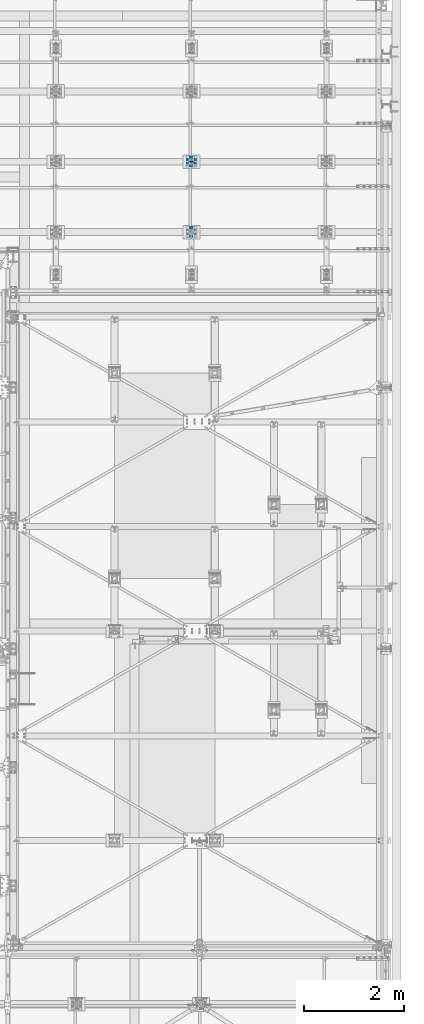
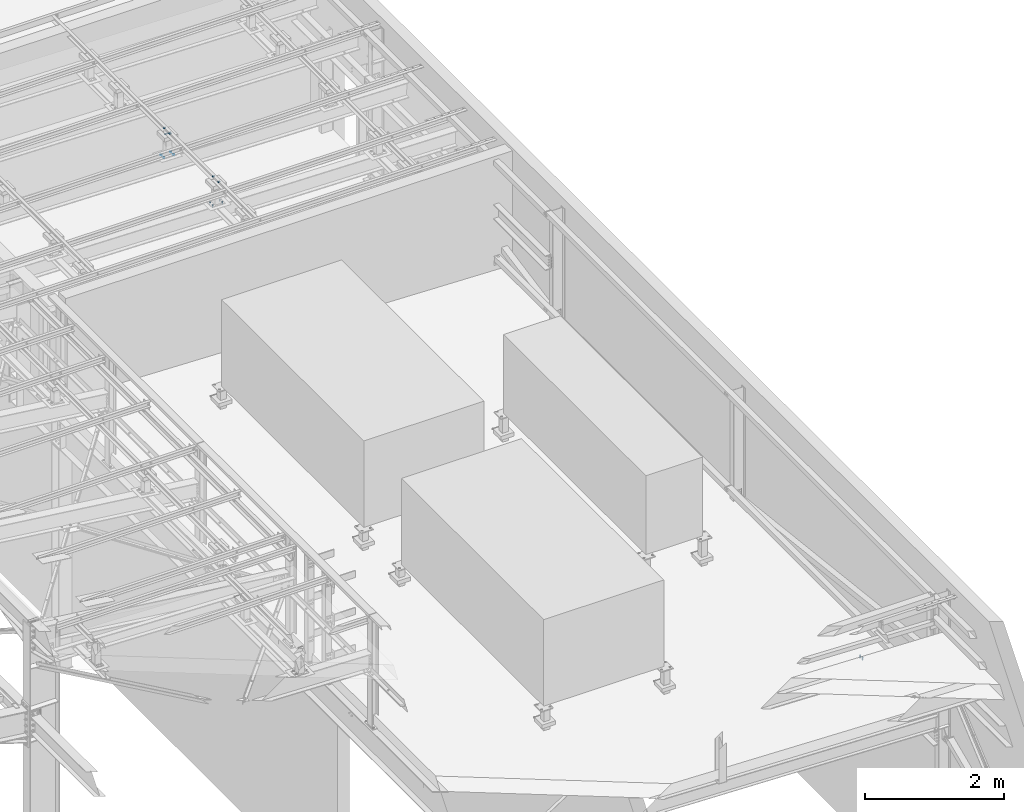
# One storey, part 392 of 3134: 7 mechanical fasteners, 6 elements without a shape of their own.
"""IFC2X3 building model written with IfcOpenShell, lengths in millimetres."""

from ifc_helpers import new_model, si_unit, frame, origin_with_axes, place, context, subcontext, project, spatial, faceted_brep, source, transform, mapped, material, type_object, element, aggregate, save


model = new_model("IFC2X3")

# Units and contexts
model_context = context("Model", 3, precision=1e-05, world=origin_with_axes())
body_context = subcontext(model_context, "Body", "Model", "MODEL_VIEW")
ifc_project = project(units=[si_unit("LENGTHUNIT", "METRE", prefix="MILLI"), si_unit("AREAUNIT", "SQUARE_METRE"), si_unit("VOLUMEUNIT", "CUBIC_METRE"), si_unit("MASSUNIT", "GRAM", prefix="KILO"), si_unit("TIMEUNIT", "SECOND"), si_unit("PLANEANGLEUNIT", "RADIAN"), si_unit("SOLIDANGLEUNIT", "STERADIAN"), si_unit("THERMODYNAMICTEMPERATUREUNIT", "DEGREE_CELSIUS"), si_unit("LUMINOUSINTENSITYUNIT", "LUMEN")], contexts=[model_context])

# Site, building, storey
site_placement = place(None, origin_with_axes())
site = spatial("IfcSite", under=ifc_project, at=site_placement, CompositionType="ELEMENT")
building_placement = place(site_placement, origin_with_axes())
building = spatial("IfcBuilding", under=site, at=building_placement, Name="Undefined", CompositionType="ELEMENT")
storey_placement = place(building_placement, origin_with_axes())
storey = spatial("IfcBuildingStorey", under=building, at=storey_placement, Name="Undefined", CompositionType="ELEMENT", Elevation=0.0)

# Assembly, mechanical fastener
assembly_1_placement = place(storey_placement, origin_with_axes())
assembly_1 = element("IfcElementAssembly", 1, at=assembly_1_placement, inside=storey, AssemblyPlace="NOTDEFINED", PredefinedType="RIGID_FRAME")
ifc_material = material(Name="8.8")
mechanical_fastener_type = type_object("IfcMechanicalFastenerType", Name="Bolt assembly")
shared_shape_1 = source(origin_with_axes(), body_context, "Body", "Brep", [
    faceted_brep([(10.9696551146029, -14.0, 0.0), (5.48482755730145, -14.0, 9.5), (-5.48482755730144, -14.0, 9.5), (-10.9696551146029, -14.0, 1.34339530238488e-15), (-5.48482755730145, -14.0, -9.5), (5.48482755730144, -14.0, -9.50000000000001), (5.48482755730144, -6.0, -9.50000000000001), (-5.48482755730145, -6.0, -9.5), (-10.9696551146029, -6.0, 1.34339530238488e-15), (-5.48482755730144, -6.0, 9.5), (5.48482755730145, -6.0, 9.5), (10.9696551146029, -6.0, 0.0), (6.0, -6.0, 0.0), (5.19615242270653, -6.0, 3.00000000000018), (2.99999999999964, -6.0, 5.19615242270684), (-6.21801588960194e-13, -6.0, 6.0), (-3.00000000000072, -6.0, 5.19615242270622), (-5.19615242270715, -6.0, 2.9999999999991), (-6.0, -6.0, -1.24360317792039e-12), (-5.19615242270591, -6.0, -3.00000000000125), (-2.99999999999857, -6.0, -5.19615242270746), (1.85874342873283e-12, -6.0, -6.0), (3.00000000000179, -6.0, -5.1961524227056), (5.19615242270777, -6.0, -2.99999999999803), (5.19615242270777, 19.0, -2.99999999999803), (3.00000000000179, 19.0, -5.1961524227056), (1.85874342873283e-12, 19.0, -6.0), (-2.99999999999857, 19.0, -5.19615242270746), (-5.19615242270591, 19.0, -3.00000000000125), (-6.0, 19.0, -1.24360317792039e-12), (-5.19615242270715, 19.0, 2.9999999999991), (-3.00000000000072, 19.0, 5.19615242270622), (-6.21801588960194e-13, 19.0, 6.0), (2.99999999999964, 19.0, 5.19615242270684), (5.19615242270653, 19.0, 3.00000000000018), (6.0, 19.0, 0.0), (10.9696551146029, 4.00000000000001, 0.0), (5.48482755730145, 4.00000000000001, 9.5), (-5.48482755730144, 4.00000000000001, 9.5), (-10.9696551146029, 4.00000000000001, 1.34339530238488e-15), (-5.48482755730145, 4.00000000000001, -9.5), (5.48482755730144, 4.00000000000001, -9.50000000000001), (5.48482755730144, 14.0, -9.50000000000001), (-5.48482755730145, 14.0, -9.5), (-10.9696551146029, 14.0, 1.34339530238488e-15), (-5.48482755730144, 14.0, 9.5), (5.48482755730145, 14.0, 9.5), (10.9696551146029, 14.0, 0.0)], [[[0, 1, 2, 3, 4, 5]], [[6, 7, 8, 9, 10, 11]], [[0, 11, 10, 1]], [[1, 10, 9, 2]], [[2, 9, 8, 3]], [[3, 8, 7, 4]], [[4, 7, 6, 5]], [[5, 6, 11, 0]], [[12, 13, 14, 15, 16, 17, 18, 19, 20, 21, 22, 23]], [[24, 25, 26, 27, 28, 29, 30, 31, 32, 33, 34, 35]], [[12, 35, 34, 13]], [[13, 34, 33, 14]], [[14, 33, 32, 15]], [[15, 32, 31, 16]], [[16, 31, 30, 17]], [[17, 30, 29, 18]], [[18, 29, 28, 19]], [[19, 28, 27, 20]], [[20, 27, 26, 21]], [[21, 26, 25, 22]], [[22, 25, 24, 23]], [[23, 24, 35, 12]], [[36, 37, 38, 39, 40, 41]], [[42, 43, 44, 45, 46, 47]], [[36, 47, 46, 37]], [[37, 46, 45, 38]], [[38, 45, 44, 39]], [[39, 44, 43, 40]], [[40, 43, 42, 41]], [[41, 42, 47, 36]]]),
    faceted_brep([(7.0, -0.1, 0.0), (6.06217782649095, -0.1, 3.50000000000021), (3.49999999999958, -0.1, 6.06217782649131), (-7.25435187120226e-13, -0.1, 7.0), (-3.50000000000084, -0.1, 6.06217782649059), (-6.06217782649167, -0.1, 3.49999999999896), (-7.0, -0.1, -1.45087037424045e-12), (-6.06217782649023, -0.1, -3.50000000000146), (-3.49999999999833, -0.1, -6.06217782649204), (2.1685340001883e-12, -0.1, -7.0), (3.50000000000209, -0.1, -6.06217782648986), (6.0621778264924, -0.1, -3.4999999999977), (6.0621778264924, 4.00000000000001, -3.4999999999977), (3.50000000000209, 4.00000000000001, -6.06217782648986), (2.1685340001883e-12, 4.00000000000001, -7.0), (-3.49999999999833, 4.00000000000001, -6.06217782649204), (-6.06217782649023, 4.00000000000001, -3.50000000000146), (-7.0, 4.00000000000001, -1.45087037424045e-12), (-6.06217782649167, 4.00000000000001, 3.49999999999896), (-3.50000000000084, 4.00000000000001, 6.06217782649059), (-7.25435187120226e-13, 4.00000000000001, 7.0), (3.49999999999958, 4.00000000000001, 6.06217782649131), (6.06217782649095, 4.00000000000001, 3.50000000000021), (7.0, 4.00000000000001, 0.0), (7.0, -5.9, 0.0), (6.06217782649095, -5.9, 3.50000000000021), (3.49999999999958, -5.9, 6.06217782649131), (-7.25435187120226e-13, -5.9, 7.0), (-3.50000000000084, -5.9, 6.06217782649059), (-6.06217782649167, -5.9, 3.49999999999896), (-7.0, -5.9, -1.45087037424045e-12), (-6.06217782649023, -5.9, -3.50000000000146), (-3.49999999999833, -5.9, -6.06217782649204), (2.1685340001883e-12, -5.9, -7.0), (3.50000000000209, -5.9, -6.06217782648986), (6.0621778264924, -5.9, -3.4999999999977), (6.0621778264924, 0.0999999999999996, -3.4999999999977), (3.50000000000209, 0.0999999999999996, -6.06217782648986), (2.1685340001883e-12, 0.0999999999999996, -7.0), (-3.49999999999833, 0.0999999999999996, -6.06217782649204), (-6.06217782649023, 0.0999999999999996, -3.50000000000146), (-7.0, 0.0999999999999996, -1.45087037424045e-12), (-6.06217782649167, 0.0999999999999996, 3.49999999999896), (-3.50000000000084, 0.0999999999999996, 6.06217782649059), (-7.25435187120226e-13, 0.0999999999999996, 7.0), (3.49999999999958, 0.0999999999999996, 6.06217782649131), (6.06217782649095, 0.0999999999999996, 3.50000000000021), (7.0, 0.0999999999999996, 0.0)], [[[0, 1, 2, 3, 4, 5, 6, 7, 8, 9, 10, 11]], [[12, 13, 14, 15, 16, 17, 18, 19, 20, 21, 22, 23]], [[0, 23, 22, 1]], [[1, 22, 21, 2]], [[2, 21, 20, 3]], [[3, 20, 19, 4]], [[4, 19, 18, 5]], [[5, 18, 17, 6]], [[6, 17, 16, 7]], [[7, 16, 15, 8]], [[8, 15, 14, 9]], [[9, 14, 13, 10]], [[10, 13, 12, 11]], [[11, 12, 23, 0]], [[24, 25, 26, 27, 28, 29, 30, 31, 32, 33, 34, 35]], [[36, 37, 38, 39, 40, 41, 42, 43, 44, 45, 46, 47]], [[24, 47, 46, 25]], [[25, 46, 45, 26]], [[26, 45, 44, 27]], [[27, 44, 43, 28]], [[28, 43, 42, 29]], [[29, 42, 41, 30]], [[30, 41, 40, 31]], [[31, 40, 39, 32]], [[32, 39, 38, 33]], [[33, 38, 37, 34]], [[34, 37, 36, 35]], [[35, 36, 47, 24]]]),
])
mechanical_fastener_1_placement = place(assembly_1_placement, frame((75358.73, 29065.0, 5885.0), z_axis=(0.0, 0.0, 1.0), x_axis=(0.0, 1.0, 0.0)))
mechanical_fastener_1 = element("IfcMechanicalFastener", 2, at=mechanical_fastener_1_placement, type_object=mechanical_fastener_type, material=ifc_material, Name="Bolt assembly", NominalDiameter=12.0, NominalLength=25.0, context=body_context, shape_type="MappedRepresentation", body=[
    mapped(shared_shape_1, transform((0.0, 0.0, 0.0))),
    mapped(shared_shape_1, transform((160.0, 0.0, 0.0))),
])

assembly_2_placement = place(storey_placement, origin_with_axes())
assembly_2 = element("IfcElementAssembly", 3, at=assembly_2_placement, inside=storey, AssemblyPlace="NOTDEFINED", PredefinedType="RIGID_FRAME")
mechanical_fastener_2_placement = place(assembly_2_placement, frame((75358.73, 27665.0, 5885.0), z_axis=(0.0, 0.0, 1.0), x_axis=(0.0, 1.0, 0.0)))
mechanical_fastener_2 = element("IfcMechanicalFastener", 4, at=mechanical_fastener_2_placement, type_object=mechanical_fastener_type, material=ifc_material, Name="Bolt assembly", NominalDiameter=12.0, NominalLength=25.0, context=body_context, shape_type="MappedRepresentation", body=[
    mapped(shared_shape_1, transform((0.0, 0.0, 0.0))),
    mapped(shared_shape_1, transform((160.0, 0.0, 0.0))),
])
aggregate(assembly_2, [mechanical_fastener_2])

assembly_3_placement = place(storey_placement, origin_with_axes())
assembly_3 = element("IfcElementAssembly", 5, at=assembly_3_placement, inside=storey, AssemblyPlace="NOTDEFINED", PredefinedType="RIGID_FRAME")
shared_shape_2 = source(origin_with_axes(), body_context, "Body", "Brep", [
    faceted_brep([(7.0, 13.0000253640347, 0.0), (6.06217782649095, 13.0000253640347, 3.50000000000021), (3.49999999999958, 13.0000253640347, 6.06217782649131), (-7.25435187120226e-13, 13.0000253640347, 7.0), (-3.50000000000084, 13.0000253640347, 6.06217782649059), (-6.06217782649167, 13.0000253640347, 3.49999999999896), (-7.0, 13.0000253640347, -1.45087037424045e-12), (-6.06217782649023, 13.0000253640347, -3.50000000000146), (-3.49999999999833, 13.0000253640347, -6.06217782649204), (2.1685340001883e-12, 13.0000253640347, -7.0), (3.50000000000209, 13.0000253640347, -6.06217782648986), (6.0621778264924, 13.0000253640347, -3.4999999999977), (6.0621778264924, 15.0999999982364, -3.4999999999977), (3.50000000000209, 15.0999999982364, -6.06217782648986), (2.1685340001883e-12, 15.0999999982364, -7.0), (-3.49999999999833, 15.0999999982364, -6.06217782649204), (-6.06217782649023, 15.0999999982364, -3.50000000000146), (-7.0, 15.0999999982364, -1.45087037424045e-12), (-6.06217782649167, 15.0999999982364, 3.49999999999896), (-3.50000000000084, 15.0999999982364, 6.06217782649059), (-7.25435187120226e-13, 15.0999999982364, 7.0), (3.49999999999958, 15.0999999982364, 6.06217782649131), (6.06217782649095, 15.0999999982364, 3.50000000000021), (7.0, 15.0999999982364, 0.0)], [[[0, 1, 2, 3, 4, 5, 6, 7, 8, 9, 10, 11]], [[12, 13, 14, 15, 16, 17, 18, 19, 20, 21, 22, 23]], [[0, 23, 22, 1]], [[1, 22, 21, 2]], [[2, 21, 20, 3]], [[3, 20, 19, 4]], [[4, 19, 18, 5]], [[5, 18, 17, 6]], [[6, 17, 16, 7]], [[7, 16, 15, 8]], [[8, 15, 14, 9]], [[9, 14, 13, 10]], [[10, 13, 12, 11]], [[11, 12, 23, 0]]]),
])
mechanical_fastener_3_placement = place(assembly_3_placement, frame((75358.2680906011, 29183.0, 5446.97064104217), z_axis=(-0.999799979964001, 0.0, 0.0200000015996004), x_axis=(0.0, -1.0, 0.0)))
mechanical_fastener_3 = element("IfcMechanicalFastener", 6, at=mechanical_fastener_3_placement, type_object=mechanical_fastener_type, material=ifc_material, Name="Bolt assembly", NominalDiameter=12.0, NominalLength=2.0, context=body_context, shape_type="MappedRepresentation", body=[
    mapped(shared_shape_2, transform((0.0, -5.32963895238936e-10, -79.9999999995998))),
    mapped(shared_shape_2, transform((76.0, -5.32963895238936e-10, -79.9999999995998))),
    mapped(shared_shape_2, transform((0.0, 5.3114490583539e-10, 79.9999999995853))),
    mapped(shared_shape_2, transform((76.0, 5.3114490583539e-10, 79.9999999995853))),
])
aggregate(assembly_3, [mechanical_fastener_3])

# Mechanical fastener
shared_shape_3 = source(origin_with_axes(), body_context, "Body", "Brep", [
    faceted_brep([(9.0, -50.0, 0.0), (7.79422863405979, -50.0, 4.50000000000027), (4.49999999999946, -50.0, 7.79422863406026), (-9.3270238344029e-13, -50.0, 9.0), (-4.50000000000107, -50.0, 7.79422863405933), (-7.79422863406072, -50.0, 4.49999999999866), (-9.0, -50.0, -1.86540476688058e-12), (-7.79422863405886, -50.0, -4.50000000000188), (-4.49999999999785, -50.0, -7.79422863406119), (2.78811514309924e-12, -50.0, -9.0), (4.50000000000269, -50.0, -7.7942286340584), (7.79422863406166, -50.0, -4.49999999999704), (7.79422863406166, 50.1, -4.49999999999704), (4.50000000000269, 50.1, -7.7942286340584), (2.78811514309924e-12, 50.1, -9.0), (-4.49999999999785, 50.1, -7.79422863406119), (-7.79422863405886, 50.1, -4.50000000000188), (-9.0, 50.1, -1.86540476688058e-12), (-7.79422863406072, 50.1, 4.49999999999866), (-4.50000000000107, 50.1, 7.79422863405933), (-9.3270238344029e-13, 50.1, 9.0), (4.49999999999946, 50.1, 7.79422863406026), (7.79422863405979, 50.1, 4.50000000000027), (9.0, 50.1, 0.0)], [[[0, 1, 2, 3, 4, 5, 6, 7, 8, 9, 10, 11]], [[12, 13, 14, 15, 16, 17, 18, 19, 20, 21, 22, 23]], [[0, 23, 22, 1]], [[1, 22, 21, 2]], [[2, 21, 20, 3]], [[3, 20, 19, 4]], [[4, 19, 18, 5]], [[5, 18, 17, 6]], [[6, 17, 16, 7]], [[7, 16, 15, 8]], [[8, 15, 14, 9]], [[9, 14, 13, 10]], [[10, 13, 12, 11]], [[11, 12, 23, 0]]]),
])
mechanical_fastener_4_placement = place(assembly_1_placement, frame((75358.73, 29145.0, 5836.0), z_axis=(0.0, 1.0, 0.0), x_axis=(0.0, 0.0, 1.0)))
mechanical_fastener_4 = element("IfcMechanicalFastener", 7, at=mechanical_fastener_4_placement, type_object=mechanical_fastener_type, material=ifc_material, Name="Bolt assembly", NominalDiameter=16.0, NominalLength=100.0, context=body_context, shape_type="MappedRepresentation", body=[
    mapped(shared_shape_3, transform((0.0, 0.0, 0.0))),
])

aggregate(assembly_1, [mechanical_fastener_4, mechanical_fastener_1])

# Assembly, mechanical fastener
assembly_4_placement = place(storey_placement, origin_with_axes())
assembly_4 = element("IfcElementAssembly", 8, at=assembly_4_placement, inside=storey, Name="UPN260", AssemblyPlace="NOTDEFINED", PredefinedType="RIGID_FRAME")
shared_shape_4 = source(origin_with_axes(), body_context, "Body", "Brep", [
    faceted_brep([(13.856406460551, -10.0, 0.0), (6.92820323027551, -10.0, 12.0), (-6.92820323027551, -10.0, 12.0), (-13.856406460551, -10.0, 1.69692038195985e-15), (-6.92820323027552, -10.0, -12.0), (6.9282032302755, -10.0, -12.0), (6.9282032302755, 0.0, -12.0), (-6.92820323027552, 0.0, -12.0), (-13.856406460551, 0.0, 1.69692038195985e-15), (-6.92820323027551, 0.0, 12.0), (6.92820323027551, 0.0, 12.0), (13.856406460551, 0.0, 0.0), (8.0, 0.0, 0.0), (6.92820323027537, 0.0, 4.00000000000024), (3.99999999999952, 0.0, 6.92820323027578), (-8.29068785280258e-13, 0.0, 8.0), (-4.00000000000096, 0.0, 6.92820323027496), (-6.9282032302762, 0.0, 3.99999999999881), (-8.0, 0.0, -1.65813757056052e-12), (-6.92820323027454, 0.0, -4.00000000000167), (-3.99999999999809, 0.0, -6.92820323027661), (2.47832457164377e-12, 0.0, -8.0), (4.00000000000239, 0.0, -6.92820323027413), (6.92820323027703, 0.0, -3.99999999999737), (6.92820323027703, 45.0, -3.99999999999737), (4.00000000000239, 45.0, -6.92820323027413), (2.47832457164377e-12, 45.0, -8.0), (-3.99999999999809, 45.0, -6.92820323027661), (-6.92820323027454, 45.0, -4.00000000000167), (-8.0, 45.0, -1.65813757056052e-12), (-6.9282032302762, 45.0, 3.99999999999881), (-4.00000000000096, 45.0, 6.92820323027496), (-8.29068785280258e-13, 45.0, 8.0), (3.99999999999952, 45.0, 6.92820323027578), (6.92820323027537, 45.0, 4.00000000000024), (8.0, 45.0, 0.0), (13.856406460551, 13.9999999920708, 0.0), (6.92820323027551, 13.9999999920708, 12.0), (-6.92820323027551, 13.9999999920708, 12.0), (-13.856406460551, 13.9999999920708, 1.69692038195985e-15), (-6.92820323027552, 13.9999999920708, -12.0), (6.9282032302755, 13.9999999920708, -12.0), (6.9282032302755, 27.0, -12.0), (-6.92820323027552, 27.0, -12.0), (-13.856406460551, 27.0, 1.69692038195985e-15), (-6.92820323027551, 27.0, 12.0), (6.92820323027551, 27.0, 12.0), (13.856406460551, 27.0, 0.0)], [[[0, 1, 2, 3, 4, 5]], [[6, 7, 8, 9, 10, 11]], [[0, 11, 10, 1]], [[1, 10, 9, 2]], [[2, 9, 8, 3]], [[3, 8, 7, 4]], [[4, 7, 6, 5]], [[5, 6, 11, 0]], [[12, 13, 14, 15, 16, 17, 18, 19, 20, 21, 22, 23]], [[24, 25, 26, 27, 28, 29, 30, 31, 32, 33, 34, 35]], [[12, 35, 34, 13]], [[13, 34, 33, 14]], [[14, 33, 32, 15]], [[15, 32, 31, 16]], [[16, 31, 30, 17]], [[17, 30, 29, 18]], [[18, 29, 28, 19]], [[19, 28, 27, 20]], [[20, 27, 26, 21]], [[21, 26, 25, 22]], [[22, 25, 24, 23]], [[23, 24, 35, 12]], [[36, 37, 38, 39, 40, 41]], [[42, 43, 44, 45, 46, 47]], [[36, 47, 46, 37]], [[37, 46, 45, 38]], [[38, 45, 44, 39]], [[39, 44, 43, 40]], [[40, 43, 42, 41]], [[41, 42, 47, 36]]]),
    faceted_brep([(9.0, -3.46568413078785e-07, 0.0), (7.79422863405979, -3.46568413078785e-07, 4.50000000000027), (4.49999999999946, -3.46568413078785e-07, 7.79422863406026), (-9.3270238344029e-13, -3.46568413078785e-07, 9.0), (-4.50000000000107, -3.46568413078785e-07, 7.79422863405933), (-7.79422863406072, -3.46568413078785e-07, 4.49999999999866), (-9.0, -3.46568413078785e-07, -1.86540476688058e-12), (-7.79422863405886, -3.46568413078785e-07, -4.50000000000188), (-4.49999999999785, -3.46568413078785e-07, -7.79422863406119), (2.78811514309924e-12, -3.46568413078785e-07, -9.0), (4.50000000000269, -3.46568413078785e-07, -7.7942286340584), (7.79422863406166, -3.46568413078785e-07, -4.49999999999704), (7.79422863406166, 14.1000000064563, -4.49999999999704), (4.50000000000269, 14.1000000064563, -7.7942286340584), (2.78811514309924e-12, 14.1000000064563, -9.0), (-4.49999999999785, 14.1000000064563, -7.79422863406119), (-7.79422863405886, 14.1000000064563, -4.50000000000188), (-9.0, 14.1000000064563, -1.86540476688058e-12), (-7.79422863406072, 14.1000000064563, 4.49999999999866), (-4.50000000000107, 14.1000000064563, 7.79422863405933), (-9.3270238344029e-13, 14.1000000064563, 9.0), (4.49999999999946, 14.1000000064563, 7.79422863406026), (7.79422863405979, 14.1000000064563, 4.50000000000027), (9.0, 14.1000000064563, 0.0)], [[[0, 1, 2, 3, 4, 5, 6, 7, 8, 9, 10, 11]], [[12, 13, 14, 15, 16, 17, 18, 19, 20, 21, 22, 23]], [[0, 23, 22, 1]], [[1, 22, 21, 2]], [[2, 21, 20, 3]], [[3, 20, 19, 4]], [[4, 19, 18, 5]], [[5, 18, 17, 6]], [[6, 17, 16, 7]], [[7, 16, 15, 8]], [[8, 15, 14, 9]], [[9, 14, 13, 10]], [[10, 13, 12, 11]], [[11, 12, 23, 0]]]),
])
mechanical_fastener_5_placement = place(assembly_4_placement, frame((79085.0, 15600.333333, 3532.964809), z_axis=(-1.0, 0.0, 0.0), x_axis=(0.0, 1.0, 0.0)))
mechanical_fastener_5 = element("IfcMechanicalFastener", 9, at=mechanical_fastener_5_placement, type_object=mechanical_fastener_type, material=ifc_material, Name="Bolt assembly", NominalDiameter=16.0, NominalLength=45.0, context=body_context, shape_type="MappedRepresentation", body=[
    mapped(shared_shape_4, transform((0.0, 0.0, 0.0))),
    mapped(shared_shape_4, transform((66.0, 0.0, 0.0))),
])
aggregate(assembly_4, [mechanical_fastener_5])

assembly_5_placement = place(storey_placement, origin_with_axes())
assembly_5 = element("IfcElementAssembly", 10, at=assembly_5_placement, inside=storey, Name="IPE270", AssemblyPlace="NOTDEFINED", PredefinedType="RIGID_FRAME")
shared_shape_5 = source(origin_with_axes(), body_context, "Body", "Brep", [
    faceted_brep([(10.9696551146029, -5.2020427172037, 0.0), (5.48482755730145, -5.2020427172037, 9.5), (-5.48482755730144, -5.2020427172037, 9.5), (-10.9696551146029, -5.2020427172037, 1.34339530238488e-15), (-5.48482755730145, -5.2020427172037, -9.5), (5.48482755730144, -5.2020427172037, -9.50000000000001), (5.48482755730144, 2.7979572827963, -9.50000000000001), (-5.48482755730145, 2.7979572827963, -9.5), (-10.9696551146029, 2.7979572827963, 1.34339530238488e-15), (-5.48482755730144, 2.7979572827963, 9.5), (5.48482755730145, 2.7979572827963, 9.5), (10.9696551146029, 2.7979572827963, 0.0), (6.0, 2.7979572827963, 0.0), (5.19615242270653, 2.7979572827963, 3.00000000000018), (2.99999999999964, 2.7979572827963, 5.19615242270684), (-6.21801588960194e-13, 2.7979572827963, 6.0), (-3.00000000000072, 2.7979572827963, 5.19615242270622), (-5.19615242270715, 2.7979572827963, 2.9999999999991), (-6.0, 2.7979572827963, -1.24360317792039e-12), (-5.19615242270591, 2.7979572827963, -3.00000000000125), (-2.99999999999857, 2.7979572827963, -5.19615242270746), (1.85874342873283e-12, 2.7979572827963, -6.0), (3.00000000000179, 2.7979572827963, -5.1961524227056), (5.19615242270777, 2.7979572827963, -2.99999999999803), (5.19615242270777, 37.7979572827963, -2.99999999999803), (3.00000000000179, 37.7979572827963, -5.1961524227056), (1.85874342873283e-12, 37.7979572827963, -6.0), (-2.99999999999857, 37.7979572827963, -5.19615242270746), (-5.19615242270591, 37.7979572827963, -3.00000000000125), (-6.0, 37.7979572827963, -1.24360317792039e-12), (-5.19615242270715, 37.7979572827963, 2.9999999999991), (-3.00000000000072, 37.7979572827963, 5.19615242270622), (-6.21801588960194e-13, 37.7979572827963, 6.0), (2.99999999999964, 37.7979572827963, 5.19615242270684), (5.19615242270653, 37.7979572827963, 3.00000000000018), (6.0, 37.7979572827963, 0.0), (10.9696551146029, 23.0139082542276, 0.0), (5.48482755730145, 23.0139082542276, 9.5), (-5.48482755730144, 23.0139082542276, 9.5), (-10.9696551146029, 23.0139082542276, 1.34339530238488e-15), (-5.48482755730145, 23.0139082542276, -9.5), (5.48482755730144, 23.0139082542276, -9.50000000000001), (5.48482755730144, 33.0139082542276, -9.50000000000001), (-5.48482755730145, 33.0139082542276, -9.5), (-10.9696551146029, 33.0139082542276, 1.34339530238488e-15), (-5.48482755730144, 33.0139082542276, 9.5), (5.48482755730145, 33.0139082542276, 9.5), (10.9696551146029, 33.0139082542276, 0.0)], [[[0, 1, 2, 3, 4, 5]], [[6, 7, 8, 9, 10, 11]], [[0, 11, 10, 1]], [[1, 10, 9, 2]], [[2, 9, 8, 3]], [[3, 8, 7, 4]], [[4, 7, 6, 5]], [[5, 6, 11, 0]], [[12, 13, 14, 15, 16, 17, 18, 19, 20, 21, 22, 23]], [[24, 25, 26, 27, 28, 29, 30, 31, 32, 33, 34, 35]], [[12, 35, 34, 13]], [[13, 34, 33, 14]], [[14, 33, 32, 15]], [[15, 32, 31, 16]], [[16, 31, 30, 17]], [[17, 30, 29, 18]], [[18, 29, 28, 19]], [[19, 28, 27, 20]], [[20, 27, 26, 21]], [[21, 26, 25, 22]], [[22, 25, 24, 23]], [[23, 24, 35, 12]], [[36, 37, 38, 39, 40, 41]], [[42, 43, 44, 45, 46, 47]], [[36, 47, 46, 37]], [[37, 46, 45, 38]], [[38, 45, 44, 39]], [[39, 44, 43, 40]], [[40, 43, 42, 41]], [[41, 42, 47, 36]]]),
    faceted_brep([(7.0, 14.9139082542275, 0.0), (6.06217782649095, 14.9139082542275, 3.50000000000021), (3.49999999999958, 14.9139082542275, 6.06217782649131), (-7.25435187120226e-13, 14.9139082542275, 7.0), (-3.50000000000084, 14.9139082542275, 6.06217782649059), (-6.06217782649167, 14.9139082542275, 3.49999999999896), (-7.0, 14.9139082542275, -1.45087037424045e-12), (-6.06217782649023, 14.9139082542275, -3.50000000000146), (-3.49999999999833, 14.9139082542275, -6.06217782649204), (2.1685340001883e-12, 14.9139082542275, -7.0), (3.50000000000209, 14.9139082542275, -6.06217782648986), (6.0621778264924, 14.9139082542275, -3.4999999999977), (6.0621778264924, 23.0139082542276, -3.4999999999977), (3.50000000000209, 23.0139082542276, -6.06217782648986), (2.1685340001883e-12, 23.0139082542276, -7.0), (-3.49999999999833, 23.0139082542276, -6.06217782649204), (-6.06217782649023, 23.0139082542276, -3.50000000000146), (-7.0, 23.0139082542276, -1.45087037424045e-12), (-6.06217782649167, 23.0139082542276, 3.49999999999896), (-3.50000000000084, 23.0139082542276, 6.06217782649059), (-7.25435187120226e-13, 23.0139082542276, 7.0), (3.49999999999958, 23.0139082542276, 6.06217782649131), (6.06217782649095, 23.0139082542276, 3.50000000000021), (7.0, 23.0139082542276, 0.0), (7.0, 2.8979572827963, 0.0), (6.06217782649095, 2.8979572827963, 3.50000000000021), (3.49999999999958, 2.8979572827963, 6.06217782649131), (-7.25435187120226e-13, 2.8979572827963, 7.0), (-3.50000000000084, 2.8979572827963, 6.06217782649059), (-6.06217782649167, 2.8979572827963, 3.49999999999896), (-7.0, 2.8979572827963, -1.45087037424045e-12), (-6.06217782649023, 2.8979572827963, -3.50000000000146), (-3.49999999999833, 2.8979572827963, -6.06217782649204), (2.1685340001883e-12, 2.8979572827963, -7.0), (3.50000000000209, 2.8979572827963, -6.06217782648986), (6.0621778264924, 2.8979572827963, -3.4999999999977), (6.0621778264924, 13.0985548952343, -3.4999999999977), (3.50000000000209, 13.0985548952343, -6.06217782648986), (2.1685340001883e-12, 13.0985548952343, -7.0), (-3.49999999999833, 13.0985548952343, -6.06217782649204), (-6.06217782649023, 13.0985548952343, -3.50000000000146), (-7.0, 13.0985548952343, -1.45087037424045e-12), (-6.06217782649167, 13.0985548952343, 3.49999999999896), (-3.50000000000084, 13.0985548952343, 6.06217782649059), (-7.25435187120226e-13, 13.0985548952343, 7.0), (3.49999999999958, 13.0985548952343, 6.06217782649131), (6.06217782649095, 13.0985548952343, 3.50000000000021), (7.0, 13.0985548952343, 0.0)], [[[0, 1, 2, 3, 4, 5, 6, 7, 8, 9, 10, 11]], [[12, 13, 14, 15, 16, 17, 18, 19, 20, 21, 22, 23]], [[0, 23, 22, 1]], [[1, 22, 21, 2]], [[2, 21, 20, 3]], [[3, 20, 19, 4]], [[4, 19, 18, 5]], [[5, 18, 17, 6]], [[6, 17, 16, 7]], [[7, 16, 15, 8]], [[8, 15, 14, 9]], [[9, 14, 13, 10]], [[10, 13, 12, 11]], [[11, 12, 23, 0]], [[24, 25, 26, 27, 28, 29, 30, 31, 32, 33, 34, 35]], [[36, 37, 38, 39, 40, 41, 42, 43, 44, 45, 46, 47]], [[24, 47, 46, 25]], [[25, 46, 45, 26]], [[26, 45, 44, 27]], [[27, 44, 43, 28]], [[28, 43, 42, 29]], [[29, 42, 41, 30]], [[30, 41, 40, 31]], [[31, 40, 39, 32]], [[32, 39, 38, 33]], [[33, 38, 37, 34]], [[34, 37, 36, 35]], [[35, 36, 47, 24]]]),
])
mechanical_fastener_6_placement = place(assembly_5_placement, frame((75358.2680906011, 27783.0, 5446.97064104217), z_axis=(-0.999799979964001, 0.0, 0.0200000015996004), x_axis=(0.0, -1.0, 0.0)))
mechanical_fastener_6 = element("IfcMechanicalFastener", 11, at=mechanical_fastener_6_placement, type_object=mechanical_fastener_type, material=ifc_material, Name="Bolt assembly", NominalDiameter=12.0, NominalLength=35.0, context=body_context, shape_type="MappedRepresentation", body=[
    mapped(shared_shape_5, transform((0.0, -5.32963895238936e-10, -79.9999999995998))),
    mapped(shared_shape_5, transform((76.0, -5.32963895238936e-10, -79.9999999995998))),
    mapped(shared_shape_5, transform((0.0, 5.3114490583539e-10, 79.9999999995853))),
    mapped(shared_shape_5, transform((76.0, 5.3114490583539e-10, 79.9999999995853))),
])
aggregate(assembly_5, [mechanical_fastener_6])

assembly_6_placement = place(storey_placement, origin_with_axes())
assembly_6 = element("IfcElementAssembly", 12, at=assembly_6_placement, inside=storey, Name="IPE270", AssemblyPlace="NOTDEFINED", PredefinedType="RIGID_FRAME")
mechanical_fastener_7_placement = place(assembly_6_placement, frame((75358.2680906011, 29183.0, 5446.97064104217), z_axis=(-0.999799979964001, 0.0, 0.0200000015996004), x_axis=(0.0, -1.0, 0.0)))
mechanical_fastener_7 = element("IfcMechanicalFastener", 13, at=mechanical_fastener_7_placement, type_object=mechanical_fastener_type, material=ifc_material, Name="Bolt assembly", NominalDiameter=12.0, NominalLength=35.0, context=body_context, shape_type="MappedRepresentation", body=[
    mapped(shared_shape_5, transform((0.0, -5.32963895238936e-10, -79.9999999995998))),
    mapped(shared_shape_5, transform((76.0, -5.32963895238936e-10, -79.9999999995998))),
    mapped(shared_shape_5, transform((0.0, 5.3114490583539e-10, 79.9999999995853))),
    mapped(shared_shape_5, transform((76.0, 5.3114490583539e-10, 79.9999999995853))),
])
aggregate(assembly_6, [mechanical_fastener_7])

save(model, "model.ifc")
